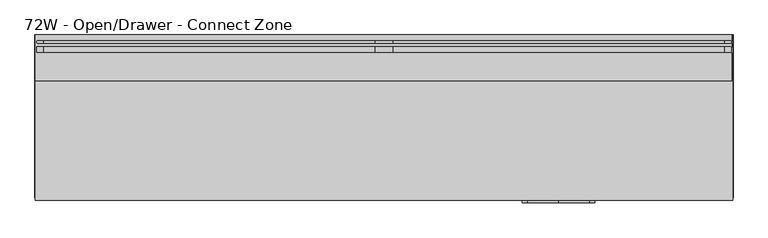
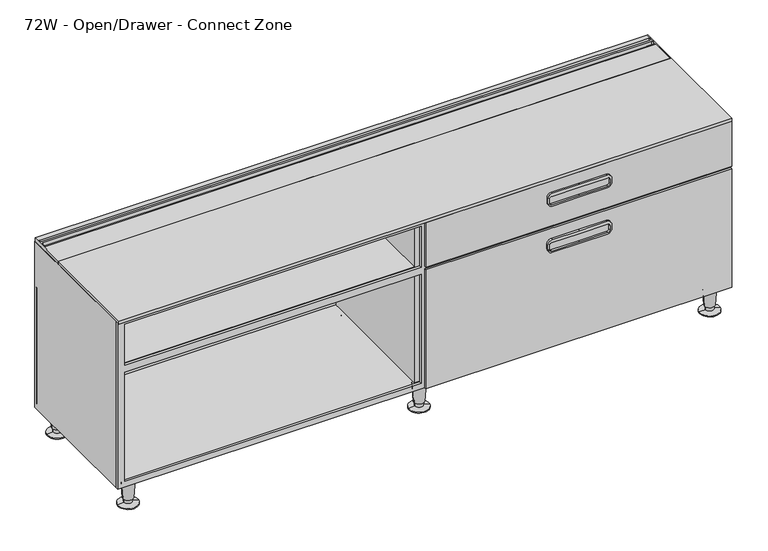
"""IFC4 building model written with IfcOpenShell, lengths in millimetres: furniture geometry, Steelcase - C Scape - Low Storage - 1.5 High - 60W and 72W : 72W - Open/Drawer - Connect Zone."""

from ifc_helpers import new_model, si_unit, point, frame, frame_2d, origin, place, context, project, spatial, polyline, circle_curve, trimmed, segment, composite_curve, outline, extrude, faceted_brep, source, transform, mapped, element, save
from ifc_brep_helpers import plane_surface, cylinder_surface, revolved_surface, advanced_brep


def furniture_72w_open_drawer_connect_zone_87427762(model_context):
    return source(origin(), model_context, "Body", "SolidModel", [
        advanced_brep(
        [(-302.0173728, -29.5783496, 599.4426137), (-302.0173728, -29.5783496, 458.7801967), (-302.0173728, -9.5194193, 458.7801967), (-302.0173728, -9.5194193, 466.2604814), (-302.0173728, 0.0055807, 466.2604814), (-302.0173728, 0.0055807, 599.4426137), (-302.0173728, -17.0388453, 599.4426137), (-302.0173728, -17.0388453, 609.5926846), (-302.0173728, -20.5059237, 609.5926846), (-302.0173728, -20.5059237, 599.4426137), (-302.0173728, -46.4703418, 599.4426137), (-302.0173728, -32.0458511, 599.4426137), (-302.0173728, -32.0458511, 609.5926846), (-302.0173728, -46.4703418, 609.5926846), (-304.8013237, -120.6444193, 599.4426137), (-304.8013237, -120.6444193, 609.5926846), (-304.8013237, 0.0055807, 609.5926846), (-304.8013237, 0.0055807, 466.2604814), (-304.8013237, -9.5194193, 466.2604814), (-304.8013237, -9.5194193, 458.7801967), (-304.8013237, -29.5783496, 458.7801967), (-304.8013237, -29.5783496, 599.4426137), (-299.2329352, -23.2903613, 599.4426137), (1516.9507358, -23.2903613, 599.4426137), (1519.9272317, -20.3138654, 599.4426137), (1519.9473728, -32.274699, 599.4426137), (1517.2308823, -29.5783496, 599.4426137), (-299.5498713, -29.5783496, 599.4426137), (1519.9473728, -46.4703418, 599.4426137), (1519.9473728, -120.5681445, 599.4426137), (-299.3205978, -14.3420703, 599.4426137), (1519.9473728, 0.0, 599.4426137), (1519.9473728, -17.0388453, 599.4426137), (1517.2505978, -14.3420703, 599.4426137), (1519.9473728, 0.0055807, 609.5926846), (1519.9473728, -120.5681445, 609.5926846), (1519.9473728, -46.4703418, 609.5926846), (-299.5498713, -29.5783496, 609.5926846), (1517.2308823, -29.5783496, 609.5926846), (1519.9272317, -32.274699, 609.5926846), (1519.9473728, -20.3138654, 609.5926846), (1516.9507358, -23.2903613, 609.5926846), (-299.2329352, -23.2903613, 609.5926846), (-299.3205978, -14.3420703, 609.5926846), (1517.2505978, -14.3420703, 609.5926846), (1519.9473728, -17.0388453, 609.5926846)],
        [
            (0, 1),
            (1, 2),
            (2, 3),
            (3, 4),
            (4, 5),
            (5, 6),
            (6, 7),
            (7, 8),
            (8, 9),
            (9, 0),
            (10, 11),
            (11, 12),
            (12, 13),
            (13, 10),
            (14, 15),
            (15, 16),
            (16, 17),
            (17, 18),
            (18, 19),
            (19, 20),
            (20, 21),
            (21, 14),
            (21, 0),
            (9, 22, circle_curve(frame((-299.2329352, -20.5059237, 599.4426137), z_axis=(0.0, 0.0, 1.0), x_axis=(1.0, 0.0, 0.0)), 2.7844376)),
            (22, 23),
            (23, 24, circle_curve(frame((1516.9507358, -20.3138654, 599.4426137), z_axis=(0.0, 0.0, 1.0), x_axis=(1.0, 0.0, 0.0)), 2.9764959)),
            (24, 25),
            (25, 26, circle_curve(frame((1517.2308823, -32.274699, 599.4426137), z_axis=(0.0, 0.0, 1.0), x_axis=(1.0, 0.0, 0.0)), 2.6963494)),
            (26, 27),
            (27, 11, circle_curve(frame((-299.5498713, -32.0458511, 599.4426137), z_axis=(0.0, 0.0, 1.0), x_axis=(1.0, 0.0, 0.0)), 2.4675015)),
            (10, 28),
            (28, 29),
            (29, 14),
            (30, 6, circle_curve(frame((-299.3205978, -17.0388453, 599.4426137), z_axis=(0.0, 0.0, 1.0), x_axis=(1.0, 0.0, 0.0)), 2.696775)),
            (5, 31),
            (31, 32),
            (32, 33, circle_curve(frame((1517.2505978, -17.0388453, 599.4426137), z_axis=(0.0, 0.0, 1.0), x_axis=(1.0, 0.0, 0.0)), 2.696775)),
            (33, 30),
            (20, 1),
            (19, 2),
            (18, 3),
            (17, 4),
            (16, 34),
            (34, 31),
            (15, 35),
            (35, 36),
            (36, 13),
            (12, 37, circle_curve(frame((-299.5498713, -32.0458511, 609.5926846), z_axis=(0.0, 0.0, -1.0), x_axis=(1.0, 0.0, 0.0)), 2.4675015)),
            (37, 38),
            (38, 39, circle_curve(frame((1517.2308823, -32.274699, 609.5926846), z_axis=(0.0, 0.0, -1.0), x_axis=(1.0, 0.0, 0.0)), 2.6963494)),
            (39, 40),
            (40, 41, circle_curve(frame((1516.9507358, -20.3138654, 609.5926846), z_axis=(0.0, 0.0, -1.0), x_axis=(1.0, 0.0, 0.0)), 2.9764959)),
            (41, 42),
            (42, 8, circle_curve(frame((-299.2329352, -20.5059237, 609.5926846), z_axis=(0.0, 0.0, -1.0), x_axis=(1.0, 0.0, 0.0)), 2.7844376)),
            (7, 43, circle_curve(frame((-299.3205978, -17.0388453, 609.5926846), z_axis=(0.0, 0.0, -1.0), x_axis=(1.0, 0.0, 0.0)), 2.696775)),
            (43, 44),
            (44, 45, circle_curve(frame((1517.2505978, -17.0388453, 609.5926846), z_axis=(0.0, 0.0, -1.0), x_axis=(1.0, 0.0, 0.0)), 2.696775)),
            (45, 34),
            (29, 35),
            (38, 26),
            (25, 39),
            (24, 40),
            (23, 41),
            (22, 42),
            (27, 37),
            (36, 28),
            (43, 30),
            (33, 44),
            (32, 45),
        ],
        [
            plane_surface(frame((-302.0173728, -120.6444193, 599.4426137), z_axis=(1.0, 0.0, 0.0), x_axis=(0.0, 1.0, 0.0))),
            plane_surface(frame((-304.8013237, -120.6444193, 599.4426137), z_axis=(-1.0, 0.0, 0.0), x_axis=(0.0, -1.0, 0.0))),
            plane_surface(frame((-302.0173728, -120.6444193, 599.4426137), z_axis=(0.0, 0.0, -1.0), x_axis=(-1.0, 0.0, 0.0))),
            plane_surface(frame((-302.0173728, -29.5783496, 599.4426137), z_axis=(0.0, -1.0, 0.0), x_axis=(-1.0, 0.0, 0.0))),
            plane_surface(frame((-302.0173728, -29.5783496, 458.7801967), z_axis=(0.0, 0.0, -1.0), x_axis=(-1.0, 0.0, 0.0))),
            plane_surface(frame((-302.0173728, -9.5194193, 458.7801967), z_axis=(0.0, 1.0, 0.0), x_axis=(-1.0, 0.0, 0.0))),
            plane_surface(frame((-302.0173728, -9.5194193, 466.2604814), z_axis=(0.0, 0.0, -1.0), x_axis=(-1.0, 0.0, 0.0))),
            plane_surface(frame((-302.0173728, 0.0055807, 466.2604814), z_axis=(0.0, 1.0, 0.0), x_axis=(-1.0, 0.0, 0.0))),
            plane_surface(frame((-302.0173728, 0.0055807, 609.5926846), z_axis=(0.0, 0.0, 1.0), x_axis=(-1.0, 0.0, 0.0))),
            plane_surface(frame((-302.0173728, -120.6444193, 609.5926846), z_axis=(0.0, -1.0, 0.0), x_axis=(-1.0, 0.0, 0.0))),
            revolved_surface(polyline([(1519.9272317, -32.274699, 599.4426137), (1519.9272317, -32.274699, 609.5926846)]), (1517.2308823, -32.274699, 599.4426137), (0.0, 0.0, -1.0)),
            plane_surface(frame((1519.9473728, -32.274699, 609.5926846), z_axis=(1.0, 0.0, 0.0), x_axis=(0.0, 0.0, -1.0))),
            revolved_surface(polyline([(1519.9272317, -20.3138654, 599.4426137), (1519.9272317, -20.3138654, 609.5926846)]), (1516.9507358, -20.3138654, 599.4426137), (0.0, 0.0, -1.0)),
            plane_surface(frame((1516.9507358, -23.2903613, 609.5926846), z_axis=(0.0, 1.0, 0.0), x_axis=(0.0, 0.0, -1.0))),
            revolved_surface(polyline([(-296.4484976, -20.5059237, 599.4426137), (-296.4484976, -20.5059237, 609.5926846)]), (-299.2329352, -20.5059237, 599.4426137), (0.0, 0.0, -1.0)),
            revolved_surface(polyline([(-297.0823698, -32.0458511, 599.4426137), (-297.0823698, -32.0458511, 609.5926846)]), (-299.5498713, -32.0458511, 599.4426137), (0.0, 0.0, -1.0)),
            plane_surface(frame((-299.5498713, -29.5783496, 609.5926846), z_axis=(0.0, -1.0, 0.0), x_axis=(0.0, 0.0, -1.0))),
            plane_surface(frame((1519.9473728, -46.4703418, 609.5926846), z_axis=(0.0, 1.0, 0.0), x_axis=(0.0, 0.0, -1.0))),
            plane_surface(frame((1519.9473728, -120.5681445, 609.5926846), z_axis=(1.0, 0.0, 0.0), x_axis=(0.0, 0.0, -1.0))),
            plane_surface(frame((-299.3205978, -14.3420703, 609.5926846), z_axis=(0.0, -1.0, 0.0), x_axis=(0.0, 0.0, -1.0))),
            revolved_surface(polyline([(1519.9473727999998, -17.0388453, 599.4426137), (1519.9473727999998, -17.0388453, 609.5926846)]), (1517.2505978, -17.0388453, 41.6222656), (0.0, 0.0, -1.0)),
            plane_surface(frame((1519.9473728, -17.0388453, 609.5926846), z_axis=(1.0, 0.0, 0.0), x_axis=(0.0, 0.0, -1.0))),
            revolved_surface(polyline([(-296.62382279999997, -17.0388453, 599.4426137), (-296.62382279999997, -17.0388453, 609.5926846)]), (-299.3205978, -17.0388453, 41.6222656), (0.0, 0.0, -1.0)),
        ],
        [
            (0, [[1, 2, 3, 4, 5, 6, 7, 8, 9, 10]]),
            (0, [[11, 12, 13, 14]]),
            (1, [[15, 16, 17, 18, 19, 20, 21, 22]]),
            (2, [[-22, 23, -10, 24, 25, 26, 27, 28, 29, 30, -11, 31, 32, 33]]),
            (2, [[34, -6, 35, 36, 37, 38]]),
            (3, [[-1, -23, -21, 39]]),
            (4, [[-2, -39, -20, 40]]),
            (5, [[-3, -40, -19, 41]]),
            (6, [[-4, -41, -18, 42]]),
            (7, [[-17, 43, 44, -35, -5, -42]]),
            (8, [[-43, -16, 45, 46, 47, -13, 48, 49, 50, 51, 52, 53, 54, -8, 55, 56, 57, 58]]),
            (9, [[-45, -15, -33, 59]]),
            (10, [[-50, 60, -28, 61]]),
            (11, [[-51, -61, -27, 62]]),
            (12, [[-52, -62, -26, 63]]),
            (13, [[-53, -63, -25, 64]]),
            (14, [[-54, -64, -24, -9]]),
            (15, [[-48, -12, -30, 65]]),
            (16, [[-49, -65, -29, -60]]),
            (17, [[-47, 66, -31, -14]]),
            (18, [[-46, -59, -32, -66]]),
            (19, [[-56, 67, -38, 68]]),
            (20, [[-57, -68, -37, 69]]),
            (21, [[-58, -69, -36, -44]]),
            (22, [[-55, -7, -34, -67]]),
        ],
    ),
        extrude(outline(polyline([(458.7240097, 724.5950189), (432.6382043, 724.5950189), (432.6382043, 602.2975), (432.6382043, 493.3349811), (458.7240097, 493.3349811), (458.7240097, -304.8013237), (92.7100024, -304.8013237), (92.7100024, 1522.73), (458.7240097, 1522.73), (458.7240097, 724.5950189)])), frame((0.0, -9.5194193, 0.0), z_axis=(0.0, 1.0, 0.0), x_axis=(0.0, 0.0, 1.0)), (0.0, 0.0, 1.0), 9.525),
        extrude(outline(polyline([(-120.6444193, 609.6), (-120.6444193, 450.8499879), (-126.9863574, 450.8499879), (-126.9863574, 599.4499291), (-433.07, 599.4499291), (-433.07, 609.6), (-120.6444193, 609.6)])), frame((-304.8013237, 0.0, 0.0), z_axis=(1.0, 0.0, 0.0), x_axis=(0.0, 1.0, 0.0)), (0.0, 0.0, 1.0), 1827.5313237),
        extrude(outline(polyline([(-120.6444193, 599.4426137), (-120.6444193, 609.5926846), (0.0055807, 609.5926846), (0.0055807, 466.2604814), (-9.5194193, 466.2604814), (-9.5194193, 458.7801967), (-29.5783496, 458.7801967), (-29.5783496, 599.4426137), (-120.6444193, 599.4426137)])), frame((1519.9473728, 0.0, 0.0), z_axis=(1.0, 0.0, 0.0), x_axis=(0.0, 1.0, 0.0)), (0.0, 0.0, 1.0), 2.7826272),
        extrude(outline(polyline([(76.1508625, -305.435), (76.1508625, 1523.365), (599.4400097, 1523.365), (599.4400097, 609.532594), (599.4400097, -305.435), (76.1508625, -305.435)]), holes=[polyline([(92.7100024, 600.0410976), (92.7100024, -283.4617676), (436.8800097, -283.4617676), (436.8800097, 600.0410976), (92.7100024, 600.0410976)]), polyline([(588.9625, -283.4617676), (588.9625, 600.0410976), (458.7240097, 600.0410976), (458.7240097, -283.4617676), (588.9625, -283.4617676)]), polyline([(436.8800097, 617.8889024), (436.8800097, 1501.3917676), (92.7100024, 1501.3917676), (92.7100024, 617.8889024), (436.8800097, 617.8889024)]), polyline([(588.9625, 1501.3917676), (458.7240097, 1501.3917676), (458.7240097, 617.8889024), (588.9625, 617.8889024), (588.9625, 1501.3917676)])]), frame((0.0, -426.7186111, 0.0), z_axis=(0.0, 1.0, 0.0), x_axis=(0.0, 0.0, 1.0)), (0.0, 0.0, 1.0), 7.3648883),
        extrude(outline(polyline([(1523.365, 0.0), (1523.365, -419.3537227), (1501.3917676, -419.3537227), (1501.3917676, 0.0), (1523.365, 0.0)])), frame((0.0, 0.0, 76.2), z_axis=(0.0, 0.0, 1.0), x_axis=(1.0, 0.0, 0.0)), (0.0, 0.0, 1.0), 523.2400097),
        extrude(outline(polyline([(-283.4630912, -419.3537227), (-305.435, -419.3537227), (-305.435, 0.0), (-283.4630912, 0.0), (-283.4630912, -419.3537227)])), frame((0.0, 0.0, 76.2), z_axis=(0.0, 0.0, 1.0), x_axis=(1.0, 0.0, 0.0)), (0.0, 0.0, 1.0), 523.2400097),
        extrude(outline(polyline([(586.4224874, -415.2912402), (586.4224874, -9.525), (631.5075126, -9.525), (631.5075126, -415.2912402), (586.4224874, -415.2912402)])), frame((0.0, 0.0, 76.2), z_axis=(0.0, 0.0, 1.0), x_axis=(1.0, 0.0, 0.0)), (0.0, 0.0, 1.0), 523.2400097),
        extrude(outline(polyline([(631.5075126, -9.525), (1501.3917676, -9.525), (1501.3917676, -415.2912402), (631.5075126, -415.2912402), (631.5075126, -9.525)])), frame((0.0, 0.0, 436.8800097), z_axis=(0.0, 0.0, 1.0), x_axis=(1.0, 0.0, 0.0)), (0.0, 0.0, 1.0), 21.844),
        extrude(outline(polyline([(586.4224874, -415.2912402), (-283.4617676, -415.2912402), (-283.4617676, -9.525), (586.4224874, -9.525), (586.4224874, -415.2912402)])), frame((0.0, 0.0, 436.8800097), z_axis=(0.0, 0.0, 1.0), x_axis=(1.0, 0.0, 0.0)), (0.0, 0.0, 1.0), 21.844),
        extrude(outline(composite_curve([segment(trimmed(circle_curve(frame_2d((406.3999879, 983.9320892)), 12.7), [point((419.0999879, 983.9320892))], [point((406.3999879, 971.2320892))], False, "CARTESIAN"), True, "CONTINUOUS"), segment(polyline([(406.3999879, 971.2320892), (391.795017, 971.2320892)]), True, "CONTINUOUS"), segment(trimmed(circle_curve(frame_2d((391.795017, 983.9320892)), 12.7), [point((391.795017, 971.2320892))], [point((379.095017, 983.9320892))], False, "CARTESIAN"), True, "CONTINUOUS"), segment(polyline([(379.095017, 983.9320892), (379.095017, 1066.164845), (379.095017, 1148.3976007)]), True, "CONTINUOUS"), segment(trimmed(circle_curve(frame_2d((391.795017, 1148.3976007)), 12.7), [point((379.095017, 1148.3976007))], [point((391.795017, 1161.0976007))], False, "CARTESIAN"), True, "CONTINUOUS"), segment(polyline([(391.795017, 1161.0976007), (406.3999879, 1161.0976007)]), True, "CONTINUOUS"), segment(trimmed(circle_curve(frame_2d((406.3999879, 1148.3976007)), 12.7), [point((406.3999879, 1161.0976007))], [point((419.0999879, 1148.3976007))], False, "CARTESIAN"), True, "CONTINUOUS"), segment(polyline([(419.0999879, 1148.3976007), (419.0999879, 1066.164845), (419.0999879, 983.9320892)]), True, "CONTINUOUS")], self_intersect=False), holes=[composite_curve([segment(trimmed(circle_curve(frame_2d((402.9710063, 982.4097015)), 6.35), [point((402.9710063, 976.0597015))], [point((409.3210063, 982.4097015))], True, "CARTESIAN"), True, "CONTINUOUS"), segment(polyline([(409.3210063, 982.4097015), (409.3210063, 1066.164845), (409.3210063, 1149.9199884)]), True, "CONTINUOUS"), segment(trimmed(circle_curve(frame_2d((402.9710063, 1149.9199884)), 6.35), [point((409.3210063, 1149.9199884))], [point((402.9710063, 1156.2699884))], True, "CARTESIAN"), True, "CONTINUOUS"), segment(polyline([(402.9710063, 1156.2699884), (390.2709942, 1156.2699884)]), True, "CONTINUOUS"), segment(trimmed(circle_curve(frame_2d((390.2709942, 1149.9199884)), 6.35), [point((390.2709942, 1156.2699884))], [point((383.9209942, 1149.9199884))], True, "CARTESIAN"), True, "CONTINUOUS"), segment(polyline([(383.9209942, 1149.9199884), (383.9209942, 1066.164845), (383.9209942, 982.4097015)]), True, "CONTINUOUS"), segment(trimmed(circle_curve(frame_2d((390.2709942, 982.4097015)), 6.35), [point((383.9209942, 982.4097015))], [point((390.2709942, 976.0597015))], True, "CARTESIAN"), True, "CONTINUOUS"), segment(polyline([(390.2709942, 976.0597015), (402.9710063, 976.0597015)]), True, "CONTINUOUS")], self_intersect=False)]), frame((0.0, -439.42, 0.0), z_axis=(0.0, 1.0, 0.0), x_axis=(0.0, 0.0, 1.0)), (0.0, 0.0, 1.0), 6.35),
        extrude(outline(polyline([(609.5996899, -426.7186111), (1522.73, -426.7186111), (1522.73, -433.07), (609.5996899, -433.07), (609.5996899, -426.7186111)])), frame((0.0, 0.0, 458.7240097), z_axis=(0.0, 0.0, 1.0), x_axis=(1.0, 0.0, 0.0)), (0.0, 0.0, 1.0), 140.716),
        faceted_brep([(-283.4617676, -419.3537227, 92.7100024), (1501.3917676, -419.3537227, 92.7100024), (1501.3917676, -9.525, 92.7100024), (631.5075126, -9.525, 92.7100024), (631.5075126, -415.2912402, 92.7100024), (586.4224874, -415.2912402, 92.7100024), (586.4224874, -9.525, 92.7100024), (-283.4617676, -9.525, 92.7100024), (1523.365, 0.0, 76.2), (1523.365, -419.3537227, 76.2), (-305.435, -419.3537227, 76.2), (-305.435, 0.0, 76.2), (-283.4630912, -419.3537227, 599.4400097), (-305.435, -419.3537227, 599.4400097), (1523.365, -419.3537227, 599.4400097), (1501.3917676, -419.3537227, 599.4400097), (-305.435, 0.0, 599.4400097), (1523.365, 0.0, 599.4400097), (-283.4630912, -9.525, 599.4400097), (586.4224874, -9.525, 599.4400097), (586.4224874, -415.2912402, 599.4400097), (631.5075126, -415.2912402, 599.4400097), (631.5075126, -9.525, 599.4400097), (1501.3917676, -9.525, 599.4400097)], [[[0, 1, 2, 3, 4, 5, 6, 7]], [[8, 9, 10, 11]], [[1, 0, 12, 13, 10, 9, 14, 15]], [[8, 11, 16, 17]], [[16, 13, 12, 18, 19, 20, 21, 22, 23, 15, 14, 17]], [[13, 16, 11, 10]], [[18, 12, 0, 7]], [[19, 18, 7, 6]], [[20, 19, 6, 5]], [[22, 21, 4, 3]], [[23, 22, 3, 2]], [[15, 23, 2, 1]], [[17, 14, 9, 8]], [[21, 20, 5, 4]]]),
        advanced_brep(
        [(579.8539515, -29.9489775, 0.0), (638.0760485, -38.8569507, 0.0), (608.965, -34.4029641, 0.0), (579.8539515, -29.9489775, 2.5119506), (638.0760485, -38.8569507, 2.5119506), (597.202835, -32.6033544, 5.7545598), (620.727165, -36.2025738, 5.7545598), (596.5140655, -32.4979728, 19.05), (621.4159345, -36.3079555, 19.05), (594.0844786, -32.1262463, 19.05), (623.8455214, -36.6796819, 19.05), (590.1341305, -31.5218435, 76.2), (627.7958695, -37.2840847, 76.2), (608.965, -34.4029641, 76.2)],
        [
            (0, 1, circle_curve(frame((608.965, -34.4029641, 0.0), z_axis=(0.0, 0.0, -1.0), x_axis=(0.0, -1.0, 0.0)), 29.4498071)),
            (1, 2),
            (2, 0),
            (1, 0, circle_curve(frame((608.965, -34.4029641, 0.0), z_axis=(0.0, 0.0, -1.0), x_axis=(0.0, -1.0, 0.0)), 29.4498071)),
            (3, 4, circle_curve(frame((608.965, -34.4029641, 2.5119506), z_axis=(0.0, 0.0, -1.0), x_axis=(0.0, -1.0, 0.0)), 29.4498071)),
            (4, 1),
            (0, 3),
            (4, 3, circle_curve(frame((608.965, -34.4029641, 2.5119506), z_axis=(0.0, 0.0, -1.0), x_axis=(0.0, -1.0, 0.0)), 29.4498071)),
            (5, 6, circle_curve(frame((608.965, -34.4029641, 5.7545598), z_axis=(0.0, 0.0, -1.0), x_axis=(0.0, -1.0, 0.0)), 11.8990387)),
            (6, 4),
            (3, 5),
            (6, 5, circle_curve(frame((608.965, -34.4029641, 5.7545598), z_axis=(0.0, 0.0, -1.0), x_axis=(0.0, -1.0, 0.0)), 11.8990387)),
            (7, 8, circle_curve(frame((608.965, -34.4029641, 19.05), z_axis=(0.0, 0.0, -1.0), x_axis=(0.0, -1.0, 0.0)), 12.5958232)),
            (8, 6),
            (5, 7),
            (8, 7, circle_curve(frame((608.965, -34.4029641, 19.05), z_axis=(0.0, 0.0, -1.0), x_axis=(0.0, -1.0, 0.0)), 12.5958232)),
            (9, 10, circle_curve(frame((608.965, -34.4029641, 19.05), z_axis=(0.0, 0.0, -1.0), x_axis=(0.0, -1.0, 0.0)), 15.0536827)),
            (10, 8),
            (7, 9),
            (10, 9, circle_curve(frame((608.965, -34.4029641, 19.05), z_axis=(0.0, 0.0, -1.0), x_axis=(0.0, -1.0, 0.0)), 15.0536827)),
            (11, 12, circle_curve(frame((608.965, -34.4029641, 76.2), z_axis=(0.0, 0.0, -1.0), x_axis=(0.0, -1.0, 0.0)), 19.05)),
            (12, 10),
            (9, 11),
            (12, 11, circle_curve(frame((608.965, -34.4029641, 76.2), z_axis=(0.0, 0.0, -1.0), x_axis=(0.0, -1.0, 0.0)), 19.05)),
            (13, 12),
            (11, 13),
        ],
        [
            plane_surface(frame((608.965, -34.4029641, 0.0), z_axis=(0.0, 0.0, -1.0), x_axis=(0.0, -1.0, 0.0))),
            cylinder_surface(frame((608.965, -34.4029641, 25.4), z_axis=(0.0, 0.0, 1.0), x_axis=(0.0, -1.0, 0.0)), 29.4498071),
            revolved_surface(polyline([(608.965, -63.8527712, 2.5119506), (608.965, -46.3020028, 5.7545598)]), (608.965, -34.4029641, 25.4), (0.0, 0.0, 1.0)),
            revolved_surface(polyline([(608.965, -46.3020028, 5.7545598), (608.965, -46.9987873, 19.05)]), (608.965, -34.4029641, 25.4), (0.0, 0.0, 1.0)),
            plane_surface(frame((608.965, -34.4029641, 19.05), z_axis=(0.0, 0.0, -1.0), x_axis=(0.0, -1.0, 0.0))),
            revolved_surface(polyline([(608.965, -49.4566468, 19.05), (608.965, -53.4529641, 76.2)]), (608.965, -34.4029641, 25.4), (0.0, 0.0, 1.0)),
            plane_surface(frame((608.965, -34.4029641, 76.2), z_axis=(0.0, 0.0, 1.0), x_axis=(0.0, -1.0, 0.0))),
        ],
        [
            (0, [[1, 2, 3]]),
            (0, [[4, -3, -2]]),
            (1, [[5, 6, -1, 7]]),
            (1, [[8, -7, -4, -6]]),
            (2, [[9, 10, -5, 11]]),
            (2, [[12, -11, -8, -10]]),
            (3, [[13, 14, -9, 15]]),
            (3, [[16, -15, -12, -14]]),
            (4, [[17, 18, -13, 19]]),
            (4, [[20, -19, -16, -18]]),
            (5, [[21, 22, -17, 23]]),
            (5, [[24, -23, -20, -22]]),
            (6, [[25, -21, 26]]),
            (6, [[-26, -24, -25]]),
        ],
    ),
        advanced_brep(
        [(579.8539515, -395.5974102, 0.0), (638.0760485, -404.5053834, 0.0), (608.965, -400.0513968, 0.0), (579.8539515, -395.5974102, 2.5119506), (638.0760485, -404.5053834, 2.5119506), (597.202835, -398.2517871, 5.7545598), (620.727165, -401.8510065, 5.7545598), (596.5140655, -398.1464055, 19.05), (621.4159345, -401.9563882, 19.05), (594.0844786, -397.774679, 19.05), (623.8455214, -402.3281146, 19.05), (590.1341305, -397.1702762, 76.2), (627.7958695, -402.9325174, 76.2), (608.965, -400.0513968, 76.2)],
        [
            (0, 1, circle_curve(frame((608.965, -400.0513968, 0.0), z_axis=(0.0, 0.0, -1.0), x_axis=(0.0, -1.0, 0.0)), 29.4498071)),
            (1, 2),
            (2, 0),
            (1, 0, circle_curve(frame((608.965, -400.0513968, 0.0), z_axis=(0.0, 0.0, -1.0), x_axis=(0.0, -1.0, 0.0)), 29.4498071)),
            (3, 4, circle_curve(frame((608.965, -400.0513968, 2.5119506), z_axis=(0.0, 0.0, -1.0), x_axis=(0.0, -1.0, 0.0)), 29.4498071)),
            (4, 1),
            (0, 3),
            (4, 3, circle_curve(frame((608.965, -400.0513968, 2.5119506), z_axis=(0.0, 0.0, -1.0), x_axis=(0.0, -1.0, 0.0)), 29.4498071)),
            (5, 6, circle_curve(frame((608.965, -400.0513968, 5.7545598), z_axis=(0.0, 0.0, -1.0), x_axis=(0.0, -1.0, 0.0)), 11.8990387)),
            (6, 4),
            (3, 5),
            (6, 5, circle_curve(frame((608.965, -400.0513968, 5.7545598), z_axis=(0.0, 0.0, -1.0), x_axis=(0.0, -1.0, 0.0)), 11.8990387)),
            (7, 8, circle_curve(frame((608.965, -400.0513968, 19.05), z_axis=(0.0, 0.0, -1.0), x_axis=(0.0, -1.0, 0.0)), 12.5958232)),
            (8, 6),
            (5, 7),
            (8, 7, circle_curve(frame((608.965, -400.0513968, 19.05), z_axis=(0.0, 0.0, -1.0), x_axis=(0.0, -1.0, 0.0)), 12.5958232)),
            (9, 10, circle_curve(frame((608.965, -400.0513968, 19.05), z_axis=(0.0, 0.0, -1.0), x_axis=(0.0, -1.0, 0.0)), 15.0536827)),
            (10, 8),
            (7, 9),
            (10, 9, circle_curve(frame((608.965, -400.0513968, 19.05), z_axis=(0.0, 0.0, -1.0), x_axis=(0.0, -1.0, 0.0)), 15.0536827)),
            (11, 12, circle_curve(frame((608.965, -400.0513968, 76.2), z_axis=(0.0, 0.0, -1.0), x_axis=(0.0, -1.0, 0.0)), 19.05)),
            (12, 10),
            (9, 11),
            (12, 11, circle_curve(frame((608.965, -400.0513968, 76.2), z_axis=(0.0, 0.0, -1.0), x_axis=(0.0, -1.0, 0.0)), 19.05)),
            (13, 12),
            (11, 13),
        ],
        [
            plane_surface(frame((608.965, -400.0513968, 0.0), z_axis=(0.0, 0.0, -1.0), x_axis=(0.0, -1.0, 0.0))),
            cylinder_surface(frame((608.965, -400.0513968, 25.4), z_axis=(0.0, 0.0, 1.0), x_axis=(0.0, -1.0, 0.0)), 29.4498071),
            revolved_surface(polyline([(608.965, -429.5012039, 2.5119506), (608.965, -411.9504355, 5.7545598)]), (608.965, -400.0513968, 25.4), (0.0, 0.0, 1.0)),
            revolved_surface(polyline([(608.965, -411.9504355, 5.7545598), (608.965, -412.64722, 19.05)]), (608.965, -400.0513968, 25.4), (0.0, 0.0, 1.0)),
            plane_surface(frame((608.965, -400.0513968, 19.05), z_axis=(0.0, 0.0, -1.0), x_axis=(0.0, -1.0, 0.0))),
            revolved_surface(polyline([(608.965, -415.1050795, 19.05), (608.965, -419.1013968, 76.2)]), (608.965, -400.0513968, 25.4), (0.0, 0.0, 1.0)),
            plane_surface(frame((608.965, -400.0513968, 76.2), z_axis=(0.0, 0.0, 1.0), x_axis=(0.0, -1.0, 0.0))),
        ],
        [
            (0, [[1, 2, 3]]),
            (0, [[4, -3, -2]]),
            (1, [[5, 6, -1, 7]]),
            (1, [[8, -7, -4, -6]]),
            (2, [[9, 10, -5, 11]]),
            (2, [[12, -11, -8, -10]]),
            (3, [[13, 14, -9, 15]]),
            (3, [[16, -15, -12, -14]]),
            (4, [[17, 18, -13, 19]]),
            (4, [[20, -19, -16, -18]]),
            (5, [[21, 22, -17, 23]]),
            (5, [[24, -23, -20, -22]]),
            (6, [[25, -21, 26]]),
            (6, [[-26, -24, -25]]),
        ],
    ),
        extrude(outline(composite_curve([segment(trimmed(circle_curve(frame_2d((552.4499879, 983.9320892)), 12.7), [point((565.1499879, 983.9320892))], [point((552.4499879, 971.2320892))], False, "CARTESIAN"), True, "CONTINUOUS"), segment(polyline([(552.4499879, 971.2320892), (537.845017, 971.2320892)]), True, "CONTINUOUS"), segment(trimmed(circle_curve(frame_2d((537.845017, 983.9320892)), 12.7), [point((537.845017, 971.2320892))], [point((525.145017, 983.9320892))], False, "CARTESIAN"), True, "CONTINUOUS"), segment(polyline([(525.145017, 983.9320892), (525.145017, 1066.164845), (525.145017, 1148.3976007)]), True, "CONTINUOUS"), segment(trimmed(circle_curve(frame_2d((537.845017, 1148.3976007)), 12.7), [point((525.145017, 1148.3976007))], [point((537.845017, 1161.0976007))], False, "CARTESIAN"), True, "CONTINUOUS"), segment(polyline([(537.845017, 1161.0976007), (552.4499879, 1161.0976007)]), True, "CONTINUOUS"), segment(trimmed(circle_curve(frame_2d((552.4499879, 1148.3976007)), 12.7), [point((552.4499879, 1161.0976007))], [point((565.1499879, 1148.3976007))], False, "CARTESIAN"), True, "CONTINUOUS"), segment(polyline([(565.1499879, 1148.3976007), (565.1499879, 1066.164845), (565.1499879, 983.9320892)]), True, "CONTINUOUS")], self_intersect=False), holes=[composite_curve([segment(trimmed(circle_curve(frame_2d((549.0210063, 982.4097015)), 6.35), [point((549.0210063, 976.0597015))], [point((555.3710063, 982.4097015))], True, "CARTESIAN"), True, "CONTINUOUS"), segment(polyline([(555.3710063, 982.4097015), (555.3710063, 1066.164845), (555.3710063, 1149.9199884)]), True, "CONTINUOUS"), segment(trimmed(circle_curve(frame_2d((549.0210063, 1149.9199884)), 6.35), [point((555.3710063, 1149.9199884))], [point((549.0210063, 1156.2699884))], True, "CARTESIAN"), True, "CONTINUOUS"), segment(polyline([(549.0210063, 1156.2699884), (536.3209942, 1156.2699884)]), True, "CONTINUOUS"), segment(trimmed(circle_curve(frame_2d((536.3209942, 1149.9199884)), 6.35), [point((536.3209942, 1156.2699884))], [point((529.9709942, 1149.9199884))], True, "CARTESIAN"), True, "CONTINUOUS"), segment(polyline([(529.9709942, 1149.9199884), (529.9709942, 1066.164845), (529.9709942, 982.4097015)]), True, "CONTINUOUS"), segment(trimmed(circle_curve(frame_2d((536.3209942, 982.4097015)), 6.35), [point((529.9709942, 982.4097015))], [point((536.3209942, 976.0597015))], True, "CARTESIAN"), True, "CONTINUOUS"), segment(polyline([(536.3209942, 976.0597015), (549.0210063, 976.0597015)]), True, "CONTINUOUS")], self_intersect=False)]), frame((0.0, -439.42, 0.0), z_axis=(0.0, 1.0, 0.0), x_axis=(0.0, 0.0, 1.0)), (0.0, 0.0, 1.0), 6.35),
        advanced_brep(
        [(1446.9075389, -29.9489775, 0.0), (1505.1296359, -38.8569507, 0.0), (1476.0185874, -34.4029641, 0.0), (1446.9075389, -29.9489775, 2.5119506), (1505.1296359, -38.8569507, 2.5119506), (1464.2564224, -32.6033544, 5.7545598), (1487.7807524, -36.2025738, 5.7545598), (1463.5676529, -32.4979728, 19.05), (1488.4695219, -36.3079555, 19.05), (1461.1380659, -32.1262463, 19.05), (1490.8991088, -36.6796819, 19.05), (1457.1877179, -31.5218435, 76.2), (1494.8494568, -37.2840847, 76.2), (1476.0185874, -34.4029641, 76.2)],
        [
            (0, 1, circle_curve(frame((1476.0185874, -34.4029641, 0.0), z_axis=(0.0, 0.0, -1.0), x_axis=(0.0, -1.0, 0.0)), 29.4498071)),
            (1, 2),
            (2, 0),
            (1, 0, circle_curve(frame((1476.0185874, -34.4029641, 0.0), z_axis=(0.0, 0.0, -1.0), x_axis=(0.0, -1.0, 0.0)), 29.4498071)),
            (3, 4, circle_curve(frame((1476.0185874, -34.4029641, 2.5119506), z_axis=(0.0, 0.0, -1.0), x_axis=(0.0, -1.0, 0.0)), 29.4498071)),
            (4, 1),
            (0, 3),
            (4, 3, circle_curve(frame((1476.0185874, -34.4029641, 2.5119506), z_axis=(0.0, 0.0, -1.0), x_axis=(0.0, -1.0, 0.0)), 29.4498071)),
            (5, 6, circle_curve(frame((1476.0185874, -34.4029641, 5.7545598), z_axis=(0.0, 0.0, -1.0), x_axis=(0.0, -1.0, 0.0)), 11.8990387)),
            (6, 4),
            (3, 5),
            (6, 5, circle_curve(frame((1476.0185874, -34.4029641, 5.7545598), z_axis=(0.0, 0.0, -1.0), x_axis=(0.0, -1.0, 0.0)), 11.8990387)),
            (7, 8, circle_curve(frame((1476.0185874, -34.4029641, 19.05), z_axis=(0.0, 0.0, -1.0), x_axis=(0.0, -1.0, 0.0)), 12.5958232)),
            (8, 6),
            (5, 7),
            (8, 7, circle_curve(frame((1476.0185874, -34.4029641, 19.05), z_axis=(0.0, 0.0, -1.0), x_axis=(0.0, -1.0, 0.0)), 12.5958232)),
            (9, 10, circle_curve(frame((1476.0185874, -34.4029641, 19.05), z_axis=(0.0, 0.0, -1.0), x_axis=(0.0, -1.0, 0.0)), 15.0536827)),
            (10, 8),
            (7, 9),
            (10, 9, circle_curve(frame((1476.0185874, -34.4029641, 19.05), z_axis=(0.0, 0.0, -1.0), x_axis=(0.0, -1.0, 0.0)), 15.0536827)),
            (11, 12, circle_curve(frame((1476.0185874, -34.4029641, 76.2), z_axis=(0.0, 0.0, -1.0), x_axis=(0.0, -1.0, 0.0)), 19.05)),
            (12, 10),
            (9, 11),
            (12, 11, circle_curve(frame((1476.0185874, -34.4029641, 76.2), z_axis=(0.0, 0.0, -1.0), x_axis=(0.0, -1.0, 0.0)), 19.05)),
            (13, 12),
            (11, 13),
        ],
        [
            plane_surface(frame((1476.0185874, -34.4029641, 0.0), z_axis=(0.0, 0.0, -1.0), x_axis=(0.0, -1.0, 0.0))),
            cylinder_surface(frame((1476.0185874, -34.4029641, 25.4), z_axis=(0.0, 0.0, 1.0), x_axis=(0.0, -1.0, 0.0)), 29.4498071),
            revolved_surface(polyline([(1476.0185874, -63.8527712, 2.5119506), (1476.0185874, -46.3020028, 5.7545598)]), (1476.0185874, -34.4029641, 25.4), (0.0, 0.0, 1.0)),
            revolved_surface(polyline([(1476.0185874, -46.3020028, 5.7545598), (1476.0185874, -46.9987873, 19.05)]), (1476.0185874, -34.4029641, 25.4), (0.0, 0.0, 1.0)),
            plane_surface(frame((1476.0185874, -34.4029641, 19.05), z_axis=(0.0, 0.0, -1.0), x_axis=(0.0, -1.0, 0.0))),
            revolved_surface(polyline([(1476.0185874, -49.4566468, 19.05), (1476.0185874, -53.4529641, 76.2)]), (1476.0185874, -34.4029641, 25.4), (0.0, 0.0, 1.0)),
            plane_surface(frame((1476.0185874, -34.4029641, 76.2), z_axis=(0.0, 0.0, 1.0), x_axis=(0.0, -1.0, 0.0))),
        ],
        [
            (0, [[1, 2, 3]]),
            (0, [[4, -3, -2]]),
            (1, [[5, 6, -1, 7]]),
            (1, [[8, -7, -4, -6]]),
            (2, [[9, 10, -5, 11]]),
            (2, [[12, -11, -8, -10]]),
            (3, [[13, 14, -9, 15]]),
            (3, [[16, -15, -12, -14]]),
            (4, [[17, 18, -13, 19]]),
            (4, [[20, -19, -16, -18]]),
            (5, [[21, 22, -17, 23]]),
            (5, [[24, -23, -20, -22]]),
            (6, [[25, -21, 26]]),
            (6, [[-26, -24, -25]]),
        ],
    ),
        advanced_brep(
        [(1446.9075389, -395.5974102, 0.0), (1505.1296359, -404.5053834, 0.0), (1476.0185874, -400.0513968, 0.0), (1446.9075389, -395.5974102, 2.5119506), (1505.1296359, -404.5053834, 2.5119506), (1464.2564224, -398.2517871, 5.7545598), (1487.7807524, -401.8510065, 5.7545598), (1463.5676529, -398.1464055, 19.05), (1488.4695219, -401.9563882, 19.05), (1461.1380659, -397.774679, 19.05), (1490.8991088, -402.3281146, 19.05), (1457.1877179, -397.1702762, 76.2), (1494.8494568, -402.9325174, 76.2), (1476.0185874, -400.0513968, 76.2)],
        [
            (0, 1, circle_curve(frame((1476.0185874, -400.0513968, 0.0), z_axis=(0.0, 0.0, -1.0), x_axis=(0.0, -1.0, 0.0)), 29.4498071)),
            (1, 2),
            (2, 0),
            (1, 0, circle_curve(frame((1476.0185874, -400.0513968, 0.0), z_axis=(0.0, 0.0, -1.0), x_axis=(0.0, -1.0, 0.0)), 29.4498071)),
            (3, 4, circle_curve(frame((1476.0185874, -400.0513968, 2.5119506), z_axis=(0.0, 0.0, -1.0), x_axis=(0.0, -1.0, 0.0)), 29.4498071)),
            (4, 1),
            (0, 3),
            (4, 3, circle_curve(frame((1476.0185874, -400.0513968, 2.5119506), z_axis=(0.0, 0.0, -1.0), x_axis=(0.0, -1.0, 0.0)), 29.4498071)),
            (5, 6, circle_curve(frame((1476.0185874, -400.0513968, 5.7545598), z_axis=(0.0, 0.0, -1.0), x_axis=(0.0, -1.0, 0.0)), 11.8990387)),
            (6, 4),
            (3, 5),
            (6, 5, circle_curve(frame((1476.0185874, -400.0513968, 5.7545598), z_axis=(0.0, 0.0, -1.0), x_axis=(0.0, -1.0, 0.0)), 11.8990387)),
            (7, 8, circle_curve(frame((1476.0185874, -400.0513968, 19.05), z_axis=(0.0, 0.0, -1.0), x_axis=(0.0, -1.0, 0.0)), 12.5958232)),
            (8, 6),
            (5, 7),
            (8, 7, circle_curve(frame((1476.0185874, -400.0513968, 19.05), z_axis=(0.0, 0.0, -1.0), x_axis=(0.0, -1.0, 0.0)), 12.5958232)),
            (9, 10, circle_curve(frame((1476.0185874, -400.0513968, 19.05), z_axis=(0.0, 0.0, -1.0), x_axis=(0.0, -1.0, 0.0)), 15.0536827)),
            (10, 8),
            (7, 9),
            (10, 9, circle_curve(frame((1476.0185874, -400.0513968, 19.05), z_axis=(0.0, 0.0, -1.0), x_axis=(0.0, -1.0, 0.0)), 15.0536827)),
            (11, 12, circle_curve(frame((1476.0185874, -400.0513968, 76.2), z_axis=(0.0, 0.0, -1.0), x_axis=(0.0, -1.0, 0.0)), 19.05)),
            (12, 10),
            (9, 11),
            (12, 11, circle_curve(frame((1476.0185874, -400.0513968, 76.2), z_axis=(0.0, 0.0, -1.0), x_axis=(0.0, -1.0, 0.0)), 19.05)),
            (13, 12),
            (11, 13),
        ],
        [
            plane_surface(frame((1476.0185874, -400.0513968, 0.0), z_axis=(0.0, 0.0, -1.0), x_axis=(0.0, -1.0, 0.0))),
            cylinder_surface(frame((1476.0185874, -400.0513968, 25.4), z_axis=(0.0, 0.0, 1.0), x_axis=(0.0, -1.0, 0.0)), 29.4498071),
            revolved_surface(polyline([(1476.0185874, -429.5012039, 2.5119506), (1476.0185874, -411.9504355, 5.7545598)]), (1476.0185874, -400.0513968, 25.4), (0.0, 0.0, 1.0)),
            revolved_surface(polyline([(1476.0185874, -411.9504355, 5.7545598), (1476.0185874, -412.64722, 19.05)]), (1476.0185874, -400.0513968, 25.4), (0.0, 0.0, 1.0)),
            plane_surface(frame((1476.0185874, -400.0513968, 19.05), z_axis=(0.0, 0.0, -1.0), x_axis=(0.0, -1.0, 0.0))),
            revolved_surface(polyline([(1476.0185874, -415.1050795, 19.05), (1476.0185874, -419.1013968, 76.2)]), (1476.0185874, -400.0513968, 25.4), (0.0, 0.0, 1.0)),
            plane_surface(frame((1476.0185874, -400.0513968, 76.2), z_axis=(0.0, 0.0, 1.0), x_axis=(0.0, -1.0, 0.0))),
        ],
        [
            (0, [[1, 2, 3]]),
            (0, [[4, -3, -2]]),
            (1, [[5, 6, -1, 7]]),
            (1, [[8, -7, -4, -6]]),
            (2, [[9, 10, -5, 11]]),
            (2, [[12, -11, -8, -10]]),
            (3, [[13, 14, -9, 15]]),
            (3, [[16, -15, -12, -14]]),
            (4, [[17, 18, -13, 19]]),
            (4, [[20, -19, -16, -18]]),
            (5, [[21, 22, -17, 23]]),
            (5, [[24, -23, -20, -22]]),
            (6, [[25, -21, 26]]),
            (6, [[-26, -24, -25]]),
        ],
    ),
        advanced_brep(
        [(-287.8113721, -395.5974102, 0.0), (-229.5892752, -404.5053834, 0.0), (-258.7003237, -400.0513968, 0.0), (-287.8113721, -395.5974102, 2.5119506), (-229.5892752, -404.5053834, 2.5119506), (-270.4624887, -398.2517871, 5.7545598), (-246.9381586, -401.8510065, 5.7545598), (-271.1512581, -398.1464055, 19.05), (-246.2493892, -401.9563882, 19.05), (-273.5808451, -397.774679, 19.05), (-243.8198022, -402.3281146, 19.05), (-277.5311931, -397.1702762, 76.2), (-239.8694542, -402.9325174, 76.2), (-258.7003237, -400.0513968, 76.2)],
        [
            (0, 1, circle_curve(frame((-258.7003237, -400.0513968, 0.0), z_axis=(0.0, 0.0, -1.0), x_axis=(0.0, -1.0, 0.0)), 29.4498071)),
            (1, 2),
            (2, 0),
            (1, 0, circle_curve(frame((-258.7003237, -400.0513968, 0.0), z_axis=(0.0, 0.0, -1.0), x_axis=(0.0, -1.0, 0.0)), 29.4498071)),
            (3, 4, circle_curve(frame((-258.7003237, -400.0513968, 2.5119506), z_axis=(0.0, 0.0, -1.0), x_axis=(0.0, -1.0, 0.0)), 29.4498071)),
            (4, 1),
            (0, 3),
            (4, 3, circle_curve(frame((-258.7003237, -400.0513968, 2.5119506), z_axis=(0.0, 0.0, -1.0), x_axis=(0.0, -1.0, 0.0)), 29.4498071)),
            (5, 6, circle_curve(frame((-258.7003237, -400.0513968, 5.7545598), z_axis=(0.0, 0.0, -1.0), x_axis=(0.0, -1.0, 0.0)), 11.8990387)),
            (6, 4),
            (3, 5),
            (6, 5, circle_curve(frame((-258.7003237, -400.0513968, 5.7545598), z_axis=(0.0, 0.0, -1.0), x_axis=(0.0, -1.0, 0.0)), 11.8990387)),
            (7, 8, circle_curve(frame((-258.7003237, -400.0513968, 19.05), z_axis=(0.0, 0.0, -1.0), x_axis=(0.0, -1.0, 0.0)), 12.5958232)),
            (8, 6),
            (5, 7),
            (8, 7, circle_curve(frame((-258.7003237, -400.0513968, 19.05), z_axis=(0.0, 0.0, -1.0), x_axis=(0.0, -1.0, 0.0)), 12.5958232)),
            (9, 10, circle_curve(frame((-258.7003237, -400.0513968, 19.05), z_axis=(0.0, 0.0, -1.0), x_axis=(0.0, -1.0, 0.0)), 15.0536827)),
            (10, 8),
            (7, 9),
            (10, 9, circle_curve(frame((-258.7003237, -400.0513968, 19.05), z_axis=(0.0, 0.0, -1.0), x_axis=(0.0, -1.0, 0.0)), 15.0536827)),
            (11, 12, circle_curve(frame((-258.7003237, -400.0513968, 76.2), z_axis=(0.0, 0.0, -1.0), x_axis=(0.0, -1.0, 0.0)), 19.05)),
            (12, 10),
            (9, 11),
            (12, 11, circle_curve(frame((-258.7003237, -400.0513968, 76.2), z_axis=(0.0, 0.0, -1.0), x_axis=(0.0, -1.0, 0.0)), 19.05)),
            (13, 12),
            (11, 13),
        ],
        [
            plane_surface(frame((-258.7003237, -400.0513968, 0.0), z_axis=(0.0, 0.0, -1.0), x_axis=(0.0, -1.0, 0.0))),
            cylinder_surface(frame((-258.7003237, -400.0513968, 25.4), z_axis=(0.0, 0.0, 1.0), x_axis=(0.0, -1.0, 0.0)), 29.4498071),
            revolved_surface(polyline([(-258.7003237, -429.5012039, 2.5119506), (-258.7003237, -411.9504355, 5.7545598)]), (-258.7003237, -400.0513968, 25.4), (0.0, 0.0, 1.0)),
            revolved_surface(polyline([(-258.7003237, -411.9504355, 5.7545598), (-258.7003237, -412.64722, 19.05)]), (-258.7003237, -400.0513968, 25.4), (0.0, 0.0, 1.0)),
            plane_surface(frame((-258.7003237, -400.0513968, 19.05), z_axis=(0.0, 0.0, -1.0), x_axis=(0.0, -1.0, 0.0))),
            revolved_surface(polyline([(-258.7003237, -415.1050795, 19.05), (-258.7003237, -419.1013968, 76.2)]), (-258.7003237, -400.0513968, 25.4), (0.0, 0.0, 1.0)),
            plane_surface(frame((-258.7003237, -400.0513968, 76.2), z_axis=(0.0, 0.0, 1.0), x_axis=(0.0, -1.0, 0.0))),
        ],
        [
            (0, [[1, 2, 3]]),
            (0, [[4, -3, -2]]),
            (1, [[5, 6, -1, 7]]),
            (1, [[8, -7, -4, -6]]),
            (2, [[9, 10, -5, 11]]),
            (2, [[12, -11, -8, -10]]),
            (3, [[13, 14, -9, 15]]),
            (3, [[16, -15, -12, -14]]),
            (4, [[17, 18, -13, 19]]),
            (4, [[20, -19, -16, -18]]),
            (5, [[21, 22, -17, 23]]),
            (5, [[24, -23, -20, -22]]),
            (6, [[25, -21, 26]]),
            (6, [[-26, -24, -25]]),
        ],
    ),
        advanced_brep(
        [(-287.8113721, -29.9489775, 0.0), (-229.5892752, -38.8569507, 0.0), (-258.7003237, -34.4029641, 0.0), (-287.8113721, -29.9489775, 2.5119506), (-229.5892752, -38.8569507, 2.5119506), (-270.4624887, -32.6033544, 5.7545598), (-246.9381586, -36.2025738, 5.7545598), (-271.1512581, -32.4979728, 19.05), (-246.2493892, -36.3079555, 19.05), (-273.5808451, -32.1262463, 19.05), (-243.8198022, -36.6796819, 19.05), (-277.5311931, -31.5218435, 76.2), (-239.8694542, -37.2840847, 76.2), (-258.7003237, -34.4029641, 76.2)],
        [
            (0, 1, circle_curve(frame((-258.7003237, -34.4029641, 0.0), z_axis=(0.0, 0.0, -1.0), x_axis=(0.0, -1.0, 0.0)), 29.4498071)),
            (1, 2),
            (2, 0),
            (1, 0, circle_curve(frame((-258.7003237, -34.4029641, 0.0), z_axis=(0.0, 0.0, -1.0), x_axis=(0.0, -1.0, 0.0)), 29.4498071)),
            (3, 4, circle_curve(frame((-258.7003237, -34.4029641, 2.5119506), z_axis=(0.0, 0.0, -1.0), x_axis=(0.0, -1.0, 0.0)), 29.4498071)),
            (4, 1),
            (0, 3),
            (4, 3, circle_curve(frame((-258.7003237, -34.4029641, 2.5119506), z_axis=(0.0, 0.0, -1.0), x_axis=(0.0, -1.0, 0.0)), 29.4498071)),
            (5, 6, circle_curve(frame((-258.7003237, -34.4029641, 5.7545598), z_axis=(0.0, 0.0, -1.0), x_axis=(0.0, -1.0, 0.0)), 11.8990387)),
            (6, 4),
            (3, 5),
            (6, 5, circle_curve(frame((-258.7003237, -34.4029641, 5.7545598), z_axis=(0.0, 0.0, -1.0), x_axis=(0.0, -1.0, 0.0)), 11.8990387)),
            (7, 8, circle_curve(frame((-258.7003237, -34.4029641, 19.05), z_axis=(0.0, 0.0, -1.0), x_axis=(0.0, -1.0, 0.0)), 12.5958232)),
            (8, 6),
            (5, 7),
            (8, 7, circle_curve(frame((-258.7003237, -34.4029641, 19.05), z_axis=(0.0, 0.0, -1.0), x_axis=(0.0, -1.0, 0.0)), 12.5958232)),
            (9, 10, circle_curve(frame((-258.7003237, -34.4029641, 19.05), z_axis=(0.0, 0.0, -1.0), x_axis=(0.0, -1.0, 0.0)), 15.0536827)),
            (10, 8),
            (7, 9),
            (10, 9, circle_curve(frame((-258.7003237, -34.4029641, 19.05), z_axis=(0.0, 0.0, -1.0), x_axis=(0.0, -1.0, 0.0)), 15.0536827)),
            (11, 12, circle_curve(frame((-258.7003237, -34.4029641, 76.2), z_axis=(0.0, 0.0, -1.0), x_axis=(0.0, -1.0, 0.0)), 19.05)),
            (12, 10),
            (9, 11),
            (12, 11, circle_curve(frame((-258.7003237, -34.4029641, 76.2), z_axis=(0.0, 0.0, -1.0), x_axis=(0.0, -1.0, 0.0)), 19.05)),
            (13, 12),
            (11, 13),
        ],
        [
            plane_surface(frame((-258.7003237, -34.4029641, 0.0), z_axis=(0.0, 0.0, -1.0), x_axis=(0.0, -1.0, 0.0))),
            cylinder_surface(frame((-258.7003237, -34.4029641, 25.4), z_axis=(0.0, 0.0, 1.0), x_axis=(0.0, -1.0, 0.0)), 29.4498071),
            revolved_surface(polyline([(-258.7003237, -63.8527712, 2.5119506), (-258.7003237, -46.3020028, 5.7545598)]), (-258.7003237, -34.4029641, 25.4), (0.0, 0.0, 1.0)),
            revolved_surface(polyline([(-258.7003237, -46.3020028, 5.7545598), (-258.7003237, -46.9987873, 19.05)]), (-258.7003237, -34.4029641, 25.4), (0.0, 0.0, 1.0)),
            plane_surface(frame((-258.7003237, -34.4029641, 19.05), z_axis=(0.0, 0.0, -1.0), x_axis=(0.0, -1.0, 0.0))),
            revolved_surface(polyline([(-258.7003237, -49.4566468, 19.05), (-258.7003237, -53.4529641, 76.2)]), (-258.7003237, -34.4029641, 25.4), (0.0, 0.0, 1.0)),
            plane_surface(frame((-258.7003237, -34.4029641, 76.2), z_axis=(0.0, 0.0, 1.0), x_axis=(0.0, -1.0, 0.0))),
        ],
        [
            (0, [[1, 2, 3]]),
            (0, [[4, -3, -2]]),
            (1, [[5, 6, -1, 7]]),
            (1, [[8, -7, -4, -6]]),
            (2, [[9, 10, -5, 11]]),
            (2, [[12, -11, -8, -10]]),
            (3, [[13, 14, -9, 15]]),
            (3, [[16, -15, -12, -14]]),
            (4, [[17, 18, -13, 19]]),
            (4, [[20, -19, -16, -18]]),
            (5, [[21, 22, -17, 23]]),
            (5, [[24, -23, -20, -22]]),
            (6, [[25, -21, 26]]),
            (6, [[-26, -24, -25]]),
        ],
    ),
        extrude(outline(polyline([(609.5996899, -426.7186111), (1522.73, -426.7186111), (1522.73, -433.07), (609.5996899, -433.07), (609.5996899, -426.7186111)])), frame((0.0, 0.0, 76.2), z_axis=(0.0, 0.0, 1.0), x_axis=(1.0, 0.0, 0.0)), (0.0, 0.0, 1.0), 374.6500097),
    ])


if __name__ == "__main__":
    model = new_model("IFC4")
    model_context = context("Model", 3, world=origin())
    ifc_project = project(units=[si_unit("LENGTHUNIT", "METRE", prefix="MILLI")], contexts=[model_context])
    site = spatial("IfcSite", under=ifc_project)
    building = spatial("IfcBuilding", under=site)
    placement = place(None, origin())
    furniture_72w_open_drawer_connect_zone_shape = furniture_72w_open_drawer_connect_zone_87427762(model_context)
    element("IfcFurniture", 1, ObjectType="Steelcase - C Scape - Low Storage - 1.5 High - 60W and 72W : 72W - Open/Drawer - Connect Zone", at=placement, inside=building, context=model_context, shape_type="MappedRepresentation", body=[
        mapped(furniture_72w_open_drawer_connect_zone_shape, transform((0.0, 0.0, 0.0), x_axis=(1.0, 0.0, 0.0), y_axis=(0.0, 1.0, 0.0), z_axis=(0.0, 0.0, 1.0))),
    ])
    save(model, "model.ifc")
